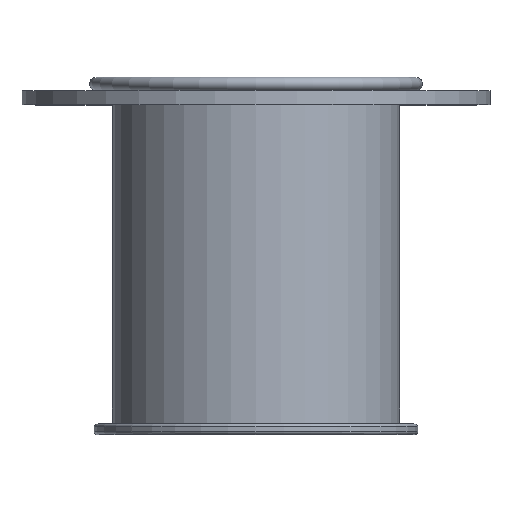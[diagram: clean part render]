
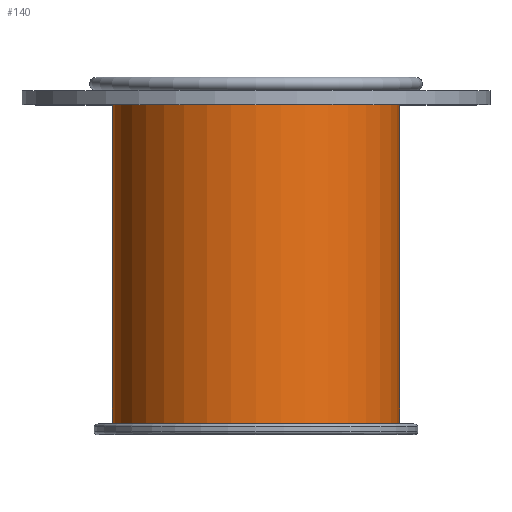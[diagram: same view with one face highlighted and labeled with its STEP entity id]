
A CAD part, top view. The second image highlights one B-rep face of the part: STEP entity #140.
In plain terms, the highlighted cylindrical face has radius 40.8 mm (diameter 81.6 mm), a full revolution.
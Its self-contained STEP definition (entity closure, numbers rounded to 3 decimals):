
#117=CYLINDRICAL_SURFACE('',#496,40.8);
#140=ADVANCED_FACE('',(#207,#208),#117,.T.);
#207=FACE_BOUND('',#271,.T.);
#208=FACE_BOUND('',#272,.T.);
#271=EDGE_LOOP('',(#335));
#272=EDGE_LOOP('',(#336));
#335=ORIENTED_EDGE('',*,*,#409,.T.);
#336=ORIENTED_EDGE('',*,*,#408,.F.);
#376=VERTEX_POINT('',#704);
#377=VERTEX_POINT('',#707);
#408=EDGE_CURVE('',#376,#376,#440,.T.);
#409=EDGE_CURVE('',#377,#377,#441,.T.);
#440=CIRCLE('',#493,40.8);
#441=CIRCLE('',#495,40.8);
#493=AXIS2_PLACEMENT_3D('',#703,#602,#603);
#495=AXIS2_PLACEMENT_3D('',#706,#606,#607);
#496=AXIS2_PLACEMENT_3D('',#708,#608,#609);
#602=DIRECTION('',(0.,1.,0.));
#603=DIRECTION('',(1.,0.,0.));
#606=DIRECTION('',(0.,1.,0.));
#607=DIRECTION('',(1.,0.,0.));
#608=DIRECTION('',(0.,1.,0.));
#609=DIRECTION('',(1.,0.,0.));
#703=CARTESIAN_POINT('',(0.,99.2,0.));
#704=CARTESIAN_POINT('',(40.8,99.2,0.));
#706=CARTESIAN_POINT('',(0.,3.,0.));
#707=CARTESIAN_POINT('',(40.8,3.,0.));
#708=CARTESIAN_POINT('',(0.,-192.076,0.));
